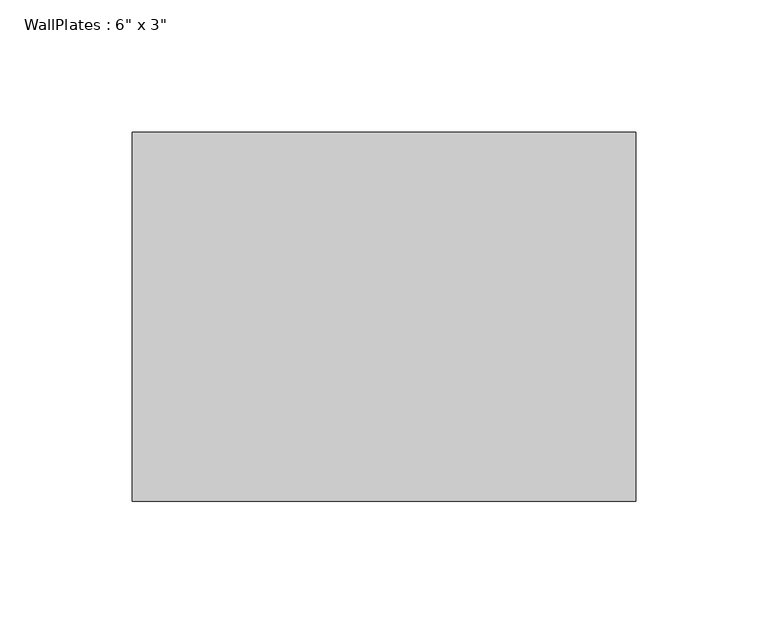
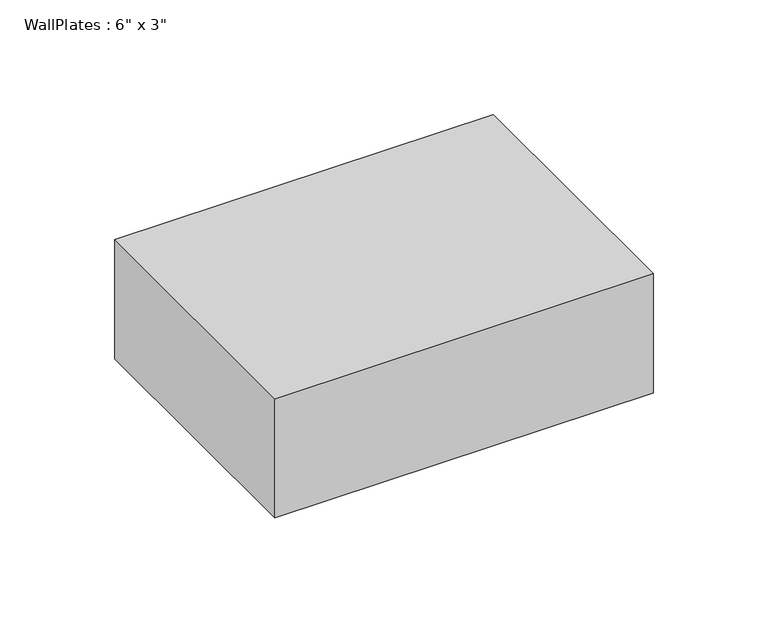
"""IFC4 building model written with IfcOpenShell, lengths in millimetres: beam geometry."""

from ifc_helpers import new_model, si_unit, frame, origin, place, context, project, spatial, polyline, outline, extrude, source, transform, mapped, element, save


def beam_98c3b82b(model_context):
    return source(origin(), model_context, "Body", "SweptSolid", [
        extrude(outline(polyline([(-95.265, -69.85), (-95.265, 69.85), (95.265, 69.85), (95.265, -69.85), (-95.265, -69.85)])), frame((0.0, 0.0, -31.75), z_axis=(0.0, 0.0, 1.0), x_axis=(1.0, 0.0, 0.0)), (0.0, 0.0, 1.0), 63.5),
    ])


if __name__ == "__main__":
    model = new_model("IFC4")
    model_context = context("Model", 3, world=origin())
    ifc_project = project(units=[si_unit("LENGTHUNIT", "METRE", prefix="MILLI")], contexts=[model_context])
    site = spatial("IfcSite", under=ifc_project)
    building = spatial("IfcBuilding", under=site)
    placement = place(None, origin())
    beam_shape = beam_98c3b82b(model_context)
    element("IfcBeam", 1, ObjectType="WallPlates : 6\" x 3\"", at=placement, inside=building, context=model_context, shape_type="MappedRepresentation", body=[
        mapped(beam_shape, transform((0.0, 0.0, 0.0), x_axis=(1.0, 0.0, 0.0), y_axis=(0.0, 1.0, 0.0), z_axis=(0.0, 0.0, 1.0))),
    ])
    save(model, "model.ifc")
